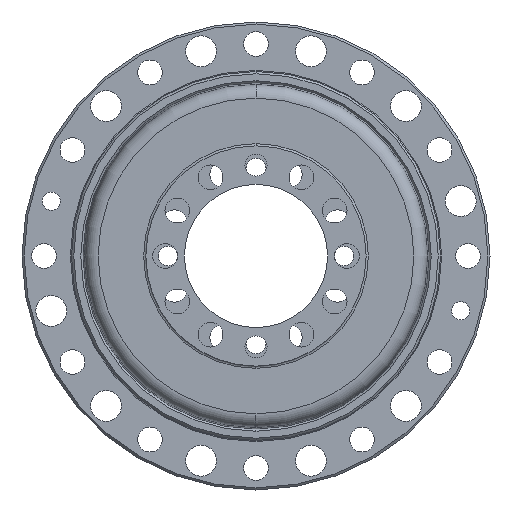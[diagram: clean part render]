
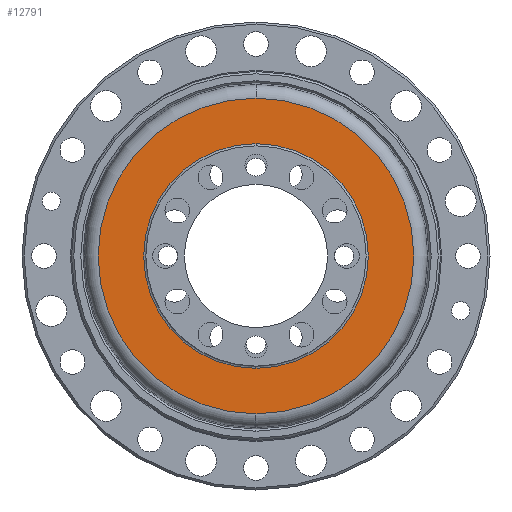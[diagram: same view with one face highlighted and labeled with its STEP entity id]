
A CAD part, left-side view. The second image highlights one B-rep face of the part: STEP entity #12791.
In plain terms, the highlighted planar face has unit normal (-1, 0, 0).
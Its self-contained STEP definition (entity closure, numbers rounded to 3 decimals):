
#882 = AXIS2_PLACEMENT_3D ( 'NONE', #7207, #8231, #2126 ) ;
#903 = DIRECTION ( 'NONE',  ( 0., 0., 1. ) ) ;
#1681 = EDGE_CURVE ( 'NONE', #4726, #5922, #6936, .T. ) ;
#2111 = ORIENTED_EDGE ( 'NONE', *, *, #7912, .T. ) ;
#2126 = DIRECTION ( 'NONE',  ( 0., 0., -1. ) ) ;
#2173 = CARTESIAN_POINT ( 'NONE',  ( 2.41, 0., 28.666 ) ) ;
#2184 = FACE_BOUND ( 'NONE', #11203, .T. ) ;
#3228 = AXIS2_PLACEMENT_3D ( 'NONE', #10573, #4444, #11609 ) ;
#3395 = EDGE_CURVE ( 'NONE', #5922, #4726, #9646, .T. ) ;
#4422 = DIRECTION ( 'NONE',  ( -1., 0., 0. ) ) ;
#4444 = DIRECTION ( 'NONE',  ( -1., 0., 0. ) ) ;
#4726 = VERTEX_POINT ( 'NONE', #8886 ) ;
#4742 = CARTESIAN_POINT ( 'NONE',  ( 2.41, 0., -20.4 ) ) ;
#5017 = AXIS2_PLACEMENT_3D ( 'NONE', #10555, #4422, #11586 ) ;
#5156 = PLANE ( 'NONE',  #882 ) ;
#5478 = VERTEX_POINT ( 'NONE', #13233 ) ;
#5922 = VERTEX_POINT ( 'NONE', #4742 ) ;
#6051 = DIRECTION ( 'NONE',  ( -1., 0., 0. ) ) ;
#6936 = CIRCLE ( 'NONE', #12493, 20.4 ) ;
#7003 = DIRECTION ( 'NONE',  ( -1., 0., 0. ) ) ;
#7207 = CARTESIAN_POINT ( 'NONE',  ( 2.41, 20.4, 0. ) ) ;
#7600 = FACE_OUTER_BOUND ( 'NONE', #12906, .T. ) ;
#7831 = AXIS2_PLACEMENT_3D ( 'NONE', #12193, #6051, #13234 ) ;
#7912 = EDGE_CURVE ( 'NONE', #5478, #11053, #10165, .T. ) ;
#7962 = ORIENTED_EDGE ( 'NONE', *, *, #3395, .F. ) ;
#8143 = ORIENTED_EDGE ( 'NONE', *, *, #1681, .F. ) ;
#8231 = DIRECTION ( 'NONE',  ( 1., 0., 0. ) ) ;
#8769 = EDGE_CURVE ( 'NONE', #11053, #5478, #10852, .T. ) ;
#8886 = CARTESIAN_POINT ( 'NONE',  ( 2.41, 0., 20.4 ) ) ;
#9282 = ORIENTED_EDGE ( 'NONE', *, *, #8769, .T. ) ;
#9646 = CIRCLE ( 'NONE', #3228, 20.4 ) ;
#10165 = CIRCLE ( 'NONE', #7831, 28.666 ) ;
#10555 = CARTESIAN_POINT ( 'NONE',  ( 2.41, 0., 0. ) ) ;
#10573 = CARTESIAN_POINT ( 'NONE',  ( 2.41, 0., 0. ) ) ;
#10852 = CIRCLE ( 'NONE', #5017, 28.666 ) ;
#11053 = VERTEX_POINT ( 'NONE', #2173 ) ;
#11203 = EDGE_LOOP ( 'NONE', ( #8143, #7962 ) ) ;
#11586 = DIRECTION ( 'NONE',  ( 0., 0., 1. ) ) ;
#11609 = DIRECTION ( 'NONE',  ( 0., 0., 1. ) ) ;
#12193 = CARTESIAN_POINT ( 'NONE',  ( 2.41, 0., 0. ) ) ;
#12493 = AXIS2_PLACEMENT_3D ( 'NONE', #13162, #7003, #903 ) ;
#12791 = ADVANCED_FACE ( 'NONE', ( #2184, #7600 ), #5156, .F. ) ;
#12906 = EDGE_LOOP ( 'NONE', ( #9282, #2111 ) ) ;
#13162 = CARTESIAN_POINT ( 'NONE',  ( 2.41, 0., 0. ) ) ;
#13233 = CARTESIAN_POINT ( 'NONE',  ( 2.41, 0., -28.666 ) ) ;
#13234 = DIRECTION ( 'NONE',  ( 0., 0., 1. ) ) ;
